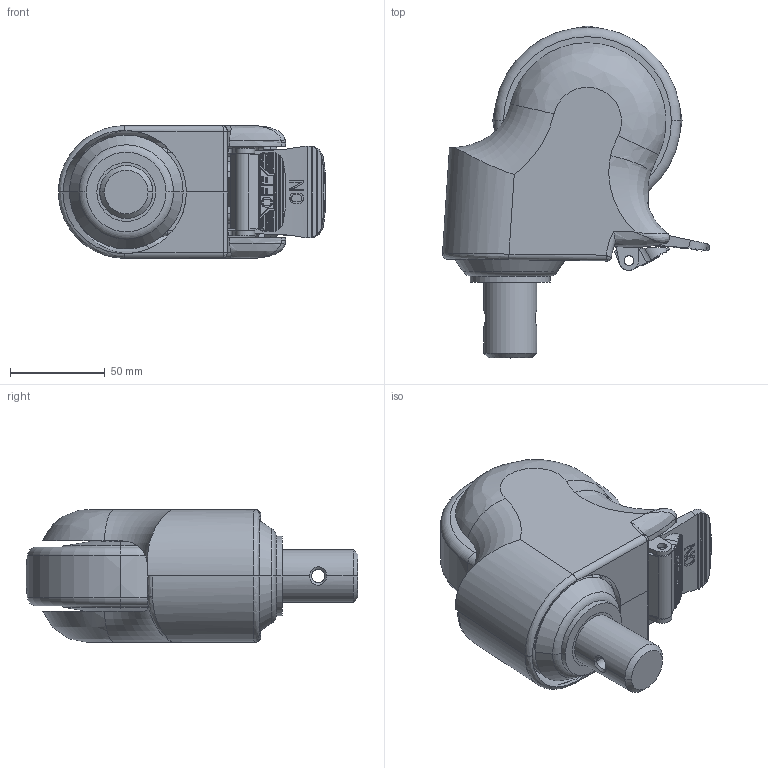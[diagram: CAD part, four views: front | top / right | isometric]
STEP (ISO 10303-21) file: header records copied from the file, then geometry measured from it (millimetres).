
FILE_DESCRIPTION((''),'2;1');
FILE_NAME('E5744-57_ASM','2022-11-01T',('lenovo'),(''),'PRO/ENGINEER BY PARAMETRIC TECHNOLOGY CORPORATION, 2010280','PRO/ENGINEER BY PARAMETRIC TECHNOLOGY CORPORATION, 2010280','');
FILE_SCHEMA(('CONFIG_CONTROL_DESIGN'));
Length unit declared in the file: millimetre
Products named in the file (13): 574-12A; 574-957; 574-69; 574-57_ASM; 570-03A; E574-6311; E574-6321; E574-6302_ASM; 570-64; 571-64; 570-25; 570-36; E5744-57_ASM
Assembly tree (13 placements, depth 3):
  E5744-57_ASM
    574-12A
    574-57_ASM
      574-957
      574-69  x2
    570-03A
    E574-6302_ASM
      E574-6311
      E574-6321
    570-64
    571-64
    570-25
    570-36
Bounding box: 140.79 x 175.02 x 70 mm (x, y, z)
Volume: 349663.3 mm3; surface area: 166290 mm2
Topology: 12 solids, 12 shells, 795 faces, 2011 edges, 1284 vertices
Faces by surface type: plane 377, cylinder 244, torus 91, cone 44, bspline 39
Entity records: 27636 total; most frequent: CARTESIAN_POINT 9204, ORIENTED_EDGE 3878, DIRECTION 3684, EDGE_CURVE 1939, AXIS2_PLACEMENT_3D 1353, VERTEX_POINT 1242, VECTOR 978, LINE 978
